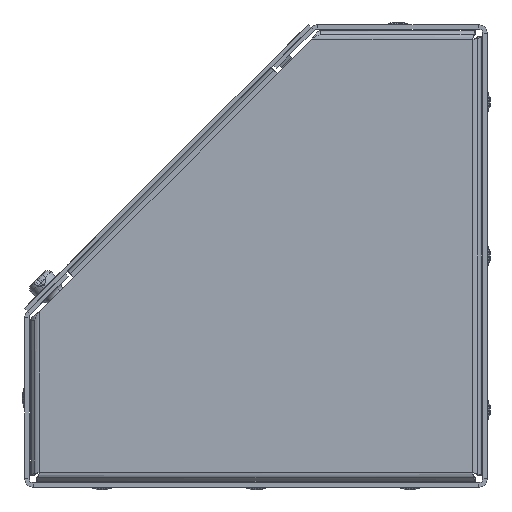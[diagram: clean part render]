
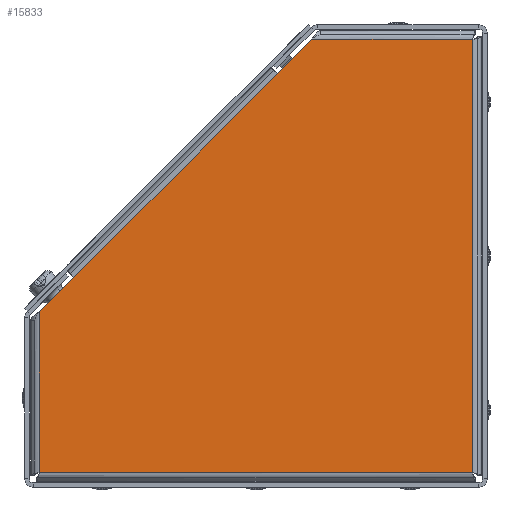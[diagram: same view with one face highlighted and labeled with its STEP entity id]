
A CAD part, left-side view. The second image highlights one B-rep face of the part: STEP entity #15833.
In plain terms, the highlighted planar face has unit normal (-1, 0, 0) as drawn and (1, 0, 0) by its records, which use the part's own axes.
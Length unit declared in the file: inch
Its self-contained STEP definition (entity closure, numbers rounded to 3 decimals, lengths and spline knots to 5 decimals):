
#849 = ORIENTED_EDGE ( 'NONE', *, *, #9925, .T. ) ;
#1239 = CARTESIAN_POINT ( 'NONE',  ( 0., 0., -5.62 ) ) ;
#1909 = VERTEX_POINT ( 'NONE', #11740 ) ;
#1919 = EDGE_CURVE ( 'NONE', #15556, #7343, #10661, .T. ) ;
#2102 = VECTOR ( 'NONE', #14404, 39.37008 ) ;
#2409 = CARTESIAN_POINT ( 'NONE',  ( 0., 0., 0. ) ) ;
#2561 = LINE ( 'NONE', #11392, #2102 ) ;
#3076 = VERTEX_POINT ( 'NONE', #11512 ) ;
#3379 = AXIS2_PLACEMENT_3D ( 'NONE', #9418, #3414, #13975 ) ;
#3414 = DIRECTION ( 'NONE',  ( 1., 0., 0. ) ) ;
#3901 = LINE ( 'NONE', #17685, #19446 ) ;
#4232 = VERTEX_POINT ( 'NONE', #7309 ) ;
#4412 = LINE ( 'NONE', #9065, #7899 ) ;
#4431 = ORIENTED_EDGE ( 'NONE', *, *, #10921, .T. ) ;
#4498 = LINE ( 'NONE', #7102, #15567 ) ;
#4567 = ORIENTED_EDGE ( 'NONE', *, *, #5370, .T. ) ;
#5370 = EDGE_CURVE ( 'NONE', #1909, #11567, #18637, .T. ) ;
#5658 = CARTESIAN_POINT ( 'NONE',  ( 0., 5.62, -3.53199 ) ) ;
#5759 = VECTOR ( 'NONE', #10239, 39.37008 ) ;
#5829 = CARTESIAN_POINT ( 'NONE',  ( 0., 5.62, -3.53199 ) ) ;
#7013 = VECTOR ( 'NONE', #8389, 39.37008 ) ;
#7102 = CARTESIAN_POINT ( 'NONE',  ( 0., 5.62, -3.53199 ) ) ;
#7205 = CARTESIAN_POINT ( 'NONE',  ( 0., 5.62, -5.62 ) ) ;
#7309 = CARTESIAN_POINT ( 'NONE',  ( 0., 2.08801, 0. ) ) ;
#7343 = VERTEX_POINT ( 'NONE', #7800 ) ;
#7800 = CARTESIAN_POINT ( 'NONE',  ( 0., 5.17275, -3.08474 ) ) ;
#7899 = VECTOR ( 'NONE', #18108, 39.37008 ) ;
#8389 = DIRECTION ( 'NONE',  ( 0., 0., -1. ) ) ;
#9065 = CARTESIAN_POINT ( 'NONE',  ( 0., 5.62, -5.62 ) ) ;
#9418 = CARTESIAN_POINT ( 'NONE',  ( 0., 0., 0. ) ) ;
#9925 = EDGE_CURVE ( 'NONE', #11567, #15556, #4412, .T. ) ;
#10224 = DIRECTION ( 'NONE',  ( 0., 1., 0. ) ) ;
#10239 = DIRECTION ( 'NONE',  ( 0., -0.707, 0.707 ) ) ;
#10374 = VERTEX_POINT ( 'NONE', #17631 ) ;
#10661 = LINE ( 'NONE', #5658, #5759 ) ;
#10921 = EDGE_CURVE ( 'NONE', #10374, #4232, #4498, .T. ) ;
#11392 = CARTESIAN_POINT ( 'NONE',  ( 0., 5.17275, -3.08474 ) ) ;
#11403 = EDGE_LOOP ( 'NONE', ( #17659, #14124, #4567, #849, #19170, #18798, #4431 ) ) ;
#11429 = EDGE_CURVE ( 'NONE', #7343, #10374, #2561, .T. ) ;
#11512 = CARTESIAN_POINT ( 'NONE',  ( 0., 0., 0. ) ) ;
#11567 = VERTEX_POINT ( 'NONE', #7205 ) ;
#11740 = CARTESIAN_POINT ( 'NONE',  ( 0., 0., -5.62 ) ) ;
#11925 = EDGE_CURVE ( 'NONE', #3076, #1909, #15041, .T. ) ;
#12419 = PLANE ( 'NONE',  #3379 ) ;
#13975 = DIRECTION ( 'NONE',  ( 0., 0., -1. ) ) ;
#14124 = ORIENTED_EDGE ( 'NONE', *, *, #11925, .T. ) ;
#14404 = DIRECTION ( 'NONE',  ( 0., -0.707, 0.707 ) ) ;
#14719 = DIRECTION ( 'NONE',  ( 0., -1., 0. ) ) ;
#15041 = LINE ( 'NONE', #2409, #7013 ) ;
#15485 = EDGE_CURVE ( 'NONE', #4232, #3076, #3901, .T. ) ;
#15556 = VERTEX_POINT ( 'NONE', #5829 ) ;
#15567 = VECTOR ( 'NONE', #17657, 39.37008 ) ;
#15680 = FACE_OUTER_BOUND ( 'NONE', #11403, .T. ) ;
#15833 = ADVANCED_FACE ( 'NONE', ( #15680 ), #12419, .T. ) ;
#17631 = CARTESIAN_POINT ( 'NONE',  ( 0., 2.53526, -0.44725 ) ) ;
#17657 = DIRECTION ( 'NONE',  ( 0., -0.707, 0.707 ) ) ;
#17659 = ORIENTED_EDGE ( 'NONE', *, *, #15485, .T. ) ;
#17685 = CARTESIAN_POINT ( 'NONE',  ( 0., 2.08801, 0. ) ) ;
#18108 = DIRECTION ( 'NONE',  ( 0., 0., 1. ) ) ;
#18181 = VECTOR ( 'NONE', #10224, 39.37008 ) ;
#18637 = LINE ( 'NONE', #1239, #18181 ) ;
#18798 = ORIENTED_EDGE ( 'NONE', *, *, #11429, .T. ) ;
#19170 = ORIENTED_EDGE ( 'NONE', *, *, #1919, .T. ) ;
#19446 = VECTOR ( 'NONE', #14719, 39.37008 ) ;
